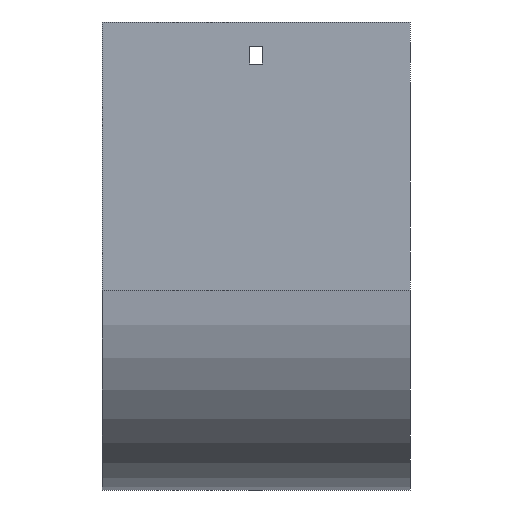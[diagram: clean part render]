
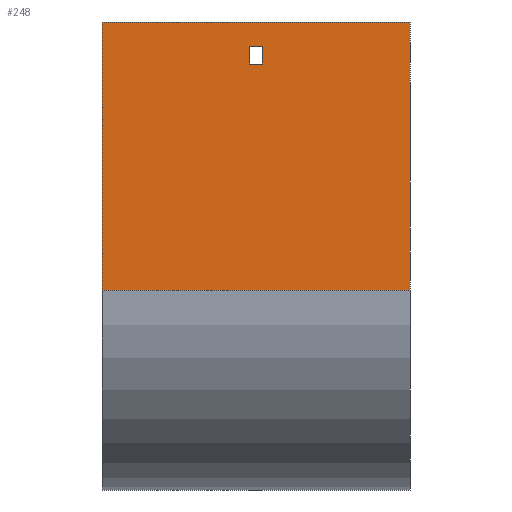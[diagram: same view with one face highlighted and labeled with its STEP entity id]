
A CAD part, front view. The second image highlights one B-rep face of the part: STEP entity #248.
In plain terms, the highlighted planar face has unit normal (0, -1, 0).
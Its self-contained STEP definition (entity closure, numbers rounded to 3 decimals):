
#27 = VECTOR ( 'NONE', #749, 1000. ) ;
#40 = EDGE_LOOP ( 'NONE', ( #1614, #1754, #1896, #1769 ) ) ;
#60 = VECTOR ( 'NONE', #1693, 1000. ) ;
#65 = CARTESIAN_POINT ( 'NONE',  ( 77., -104., -134. ) ) ;
#93 = EDGE_CURVE ( 'NONE', #852, #1897, #1804, .T. ) ;
#109 = EDGE_CURVE ( 'NONE', #1746, #1318, #1072, .T. ) ;
#116 = LINE ( 'NONE', #1909, #1630 ) ;
#148 = CARTESIAN_POINT ( 'NONE',  ( -3.25, -104., -21. ) ) ;
#169 = LINE ( 'NONE', #760, #1074 ) ;
#187 = VERTEX_POINT ( 'NONE', #509 ) ;
#200 = EDGE_CURVE ( 'NONE', #1156, #405, #1109, .T. ) ;
#242 = LINE ( 'NONE', #1742, #920 ) ;
#248 = ADVANCED_FACE ( 'NONE', ( #358, #1682 ), #332, .F. ) ;
#325 = DIRECTION ( 'NONE',  ( 0., 0., -1. ) ) ;
#332 = PLANE ( 'NONE',  #818 ) ;
#333 = LINE ( 'NONE', #741, #604 ) ;
#358 = FACE_BOUND ( 'NONE', #40, .T. ) ;
#398 = EDGE_CURVE ( 'NONE', #1318, #405, #1606, .T. ) ;
#405 = VERTEX_POINT ( 'NONE', #837 ) ;
#509 = CARTESIAN_POINT ( 'NONE',  ( 3.25, -104., -21. ) ) ;
#594 = EDGE_LOOP ( 'NONE', ( #985, #1686, #1733, #606 ) ) ;
#600 = CARTESIAN_POINT ( 'NONE',  ( 77., -104., -134. ) ) ;
#604 = VECTOR ( 'NONE', #1345, 1000. ) ;
#606 = ORIENTED_EDGE ( 'NONE', *, *, #657, .T. ) ;
#657 = EDGE_CURVE ( 'NONE', #1746, #1156, #116, .T. ) ;
#693 = VERTEX_POINT ( 'NONE', #1126 ) ;
#734 = CARTESIAN_POINT ( 'NONE',  ( -77., -104., 0. ) ) ;
#741 = CARTESIAN_POINT ( 'NONE',  ( -3.25, -104., -21. ) ) ;
#749 = DIRECTION ( 'NONE',  ( 0., 0., 1. ) ) ;
#759 = DIRECTION ( 'NONE',  ( 0., 0., -1. ) ) ;
#760 = CARTESIAN_POINT ( 'NONE',  ( 3.25, -104., -21. ) ) ;
#808 = CARTESIAN_POINT ( 'NONE',  ( -77., -104., -134. ) ) ;
#818 = AXIS2_PLACEMENT_3D ( 'NONE', #65, #1271, #1524 ) ;
#837 = CARTESIAN_POINT ( 'NONE',  ( -77., -104., -134. ) ) ;
#852 = VERTEX_POINT ( 'NONE', #1028 ) ;
#854 = VECTOR ( 'NONE', #1016, 1000. ) ;
#888 = VECTOR ( 'NONE', #759, 1000. ) ;
#920 = VECTOR ( 'NONE', #978, 1000. ) ;
#978 = DIRECTION ( 'NONE',  ( 1., 0., 0. ) ) ;
#985 = ORIENTED_EDGE ( 'NONE', *, *, #200, .T. ) ;
#1016 = DIRECTION ( 'NONE',  ( -1., 0., 0. ) ) ;
#1028 = CARTESIAN_POINT ( 'NONE',  ( -3.25, -104., -21. ) ) ;
#1072 = LINE ( 'NONE', #600, #888 ) ;
#1074 = VECTOR ( 'NONE', #325, 1000. ) ;
#1109 = LINE ( 'NONE', #808, #60 ) ;
#1126 = CARTESIAN_POINT ( 'NONE',  ( 3.25, -104., -12. ) ) ;
#1156 = VERTEX_POINT ( 'NONE', #734 ) ;
#1190 = EDGE_CURVE ( 'NONE', #693, #187, #169, .T. ) ;
#1259 = CARTESIAN_POINT ( 'NONE',  ( 77., -104., -134. ) ) ;
#1271 = DIRECTION ( 'NONE',  ( 0., 1., 0. ) ) ;
#1274 = EDGE_CURVE ( 'NONE', #187, #852, #333, .T. ) ;
#1302 = CARTESIAN_POINT ( 'NONE',  ( -3.25, -104., -12. ) ) ;
#1318 = VERTEX_POINT ( 'NONE', #1259 ) ;
#1345 = DIRECTION ( 'NONE',  ( -1., 0., 0. ) ) ;
#1459 = DIRECTION ( 'NONE',  ( -1., 0., 0. ) ) ;
#1461 = CARTESIAN_POINT ( 'NONE',  ( 77., -104., -134. ) ) ;
#1508 = CARTESIAN_POINT ( 'NONE',  ( 77., -104., 0. ) ) ;
#1524 = DIRECTION ( 'NONE',  ( 0., 0., 1. ) ) ;
#1606 = LINE ( 'NONE', #1461, #854 ) ;
#1614 = ORIENTED_EDGE ( 'NONE', *, *, #1274, .T. ) ;
#1630 = VECTOR ( 'NONE', #1459, 1000. ) ;
#1682 = FACE_OUTER_BOUND ( 'NONE', #594, .T. ) ;
#1686 = ORIENTED_EDGE ( 'NONE', *, *, #398, .F. ) ;
#1693 = DIRECTION ( 'NONE',  ( 0., 0., -1. ) ) ;
#1733 = ORIENTED_EDGE ( 'NONE', *, *, #109, .F. ) ;
#1742 = CARTESIAN_POINT ( 'NONE',  ( -3.25, -104., -12. ) ) ;
#1746 = VERTEX_POINT ( 'NONE', #1508 ) ;
#1754 = ORIENTED_EDGE ( 'NONE', *, *, #93, .T. ) ;
#1769 = ORIENTED_EDGE ( 'NONE', *, *, #1190, .T. ) ;
#1804 = LINE ( 'NONE', #148, #27 ) ;
#1896 = ORIENTED_EDGE ( 'NONE', *, *, #1907, .T. ) ;
#1897 = VERTEX_POINT ( 'NONE', #1302 ) ;
#1907 = EDGE_CURVE ( 'NONE', #1897, #693, #242, .T. ) ;
#1909 = CARTESIAN_POINT ( 'NONE',  ( 77., -104., 0. ) ) ;
